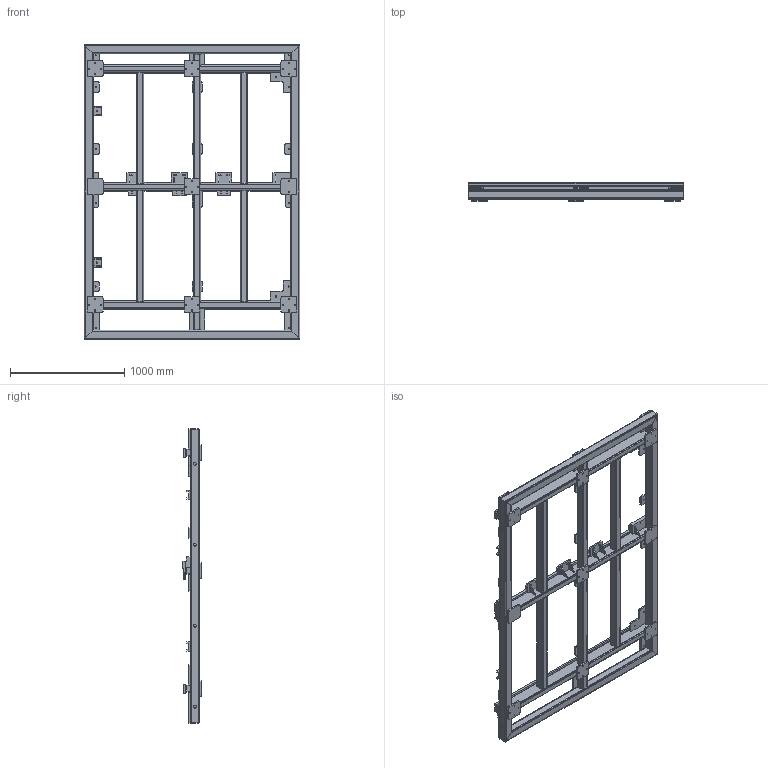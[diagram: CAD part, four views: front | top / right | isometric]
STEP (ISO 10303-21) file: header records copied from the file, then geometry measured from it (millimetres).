
FILE_DESCRIPTION(('STEP AP203'), '1');
FILE_NAME('ÒÏÏÔ1800.01.02.23.000 - Îñíîâàíèå çîíû îáñëóæèâàíèÿ', '', ('UNSPECIFIED'), ('UNSPECIFIED'), 'C3D Converter', 'C3D Toolkit', '');
FILE_SCHEMA(('CONFIG_CONTROL_DESIGN'));
Length unit declared in the file: millimetre
Products named in the file (52): ТППФ1800.01.02.23.000; ТППФ1800.01.02.22.001; ТППФ1800.01.02.22.002; ТППФ1800.01.02.22.021; ТППФ1800.01.02.22.004; ТППФ1800.01.02.22.005; ТППФ1800.01.02.22.006; ТППФ1800.01.02.22.007; ТППФ1800.01.02.22.009; ТППФ1800.01.02.22.013; ТППФ1800.01.02.22.014; ТППФ1800.01.02.22.015; ТППФ1800.01.02.21.017; ТППФ1800.01.02.22.003; ТППФ1800.01.02.22.017; ТППФ1800.01.02.22.011; ТППФ1800.01.02.22.018; ТППФ1800.01.02.21.021; ТППФ1800.01.02.22.019; ТППФ1800.01.02.23.001; ТППФ1800.01.02.21.013; ТППФ1800.01.02.21.026; ТППФ1800.01.02.21.027; ТППФ1800.01.02.21.018; ТППФ1800.01.02.21.025; ТППФ1800.01.02.22.011-01
Assembly tree (68 placements, depth 2):
  ТППФ1800.01.02.23.000
    ТППФ1800.01.02.22.001
    ТППФ1800.01.02.22.002
    ТППФ1800.01.02.22.021
    ТППФ1800.01.02.22.002
    ТППФ1800.01.02.22.004
    ТППФ1800.01.02.22.005
    ТППФ1800.01.02.22.005
    ТППФ1800.01.02.22.006
    ТППФ1800.01.02.22.005  x4
    ТППФ1800.01.02.22.007
    ТППФ1800.01.02.22.009
    ТППФ1800.01.02.22.013
    ТППФ1800.01.02.22.014
    ТППФ1800.01.02.22.015
    ТППФ1800.01.02.21.017
    ТППФ1800.01.02.21.017
    ТППФ1800.01.02.21.017
    ТППФ1800.01.02.22.003  x2
    ТППФ1800.01.02.22.003
    ТППФ1800.01.02.22.017
    ТППФ1800.01.02.22.011
    ТППФ1800.01.02.22.018
    ТППФ1800.01.02.21.021
    ТППФ1800.01.02.21.021
    ТППФ1800.01.02.21.021
    ТППФ1800.01.02.22.019
    ТППФ1800.01.02.22.017
    ТППФ1800.01.02.23.001
    ТППФ1800.01.02.21.013
    ТППФ1800.01.02.21.013
    ТППФ1800.01.02.21.013
    ТППФ1800.01.02.22.014
    ТППФ1800.01.02.22.014
    ТППФ1800.01.02.21.017
    ТППФ1800.01.02.21.017
    ТППФ1800.01.02.21.017
    ТППФ1800.01.02.21.017
    ТППФ1800.01.02.21.017
    ТППФ1800.01.02.21.017
    ТППФ1800.01.02.21.026
    ТППФ1800.01.02.21.026
    ТППФ1800.01.02.21.027  x4
    ТППФ1800.01.02.21.018  x6
    ТППФ1800.01.02.21.025  x6
    ТППФ1800.01.02.22.007
    ТППФ1800.01.02.22.007
    ТППФ1800.01.02.22.009
    ТППФ1800.01.02.22.009
    ТППФ1800.01.02.22.011-01
    ТППФ1800.01.02.22.014
    ТППФ1800.01.02.22.013
Bounding box: 1890 x 158 x 2581 mm (x, y, z)
Volume: 47055535.3 mm3; surface area: 14573471 mm2
Topology: 68 solids, 68 shells, 1109 faces, 2912 edges, 1941 vertices
Faces by surface type: plane 632, cylinder 477
Full cylindrical faces by diameter (mm): 6.647 x16, 10.106 x120, 10.5 x73, 25 x8
Entity records: 33965 total; most frequent: CARTESIAN_POINT 4979, DIRECTION 4865, ORIENTED_EDGE 4414, EDGE_CURVE 2207, AXIS2_PLACEMENT_3D 1745, VERTEX_POINT 1603, EDGE_LOOP 1518, LINE 1375
